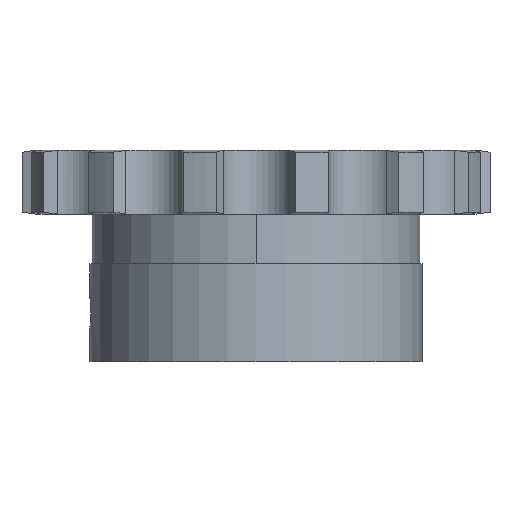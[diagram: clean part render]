
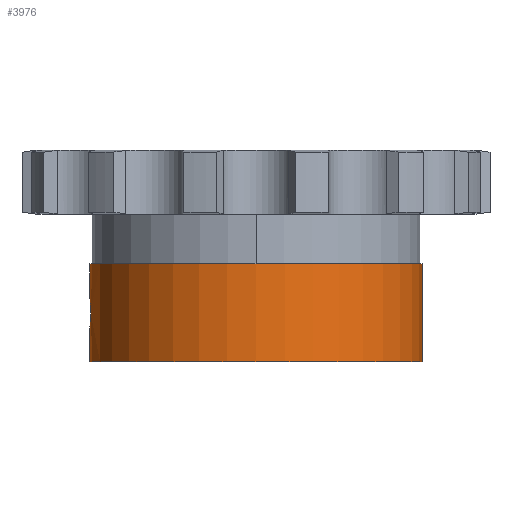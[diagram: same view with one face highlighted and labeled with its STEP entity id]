
A CAD part, front view. The second image highlights one B-rep face of the part: STEP entity #3976.
In plain terms, the highlighted cylindrical face has radius 23.5 mm (diameter 47 mm), a partial arc.
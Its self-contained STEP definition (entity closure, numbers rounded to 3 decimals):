
#992=CARTESIAN_POINT('',(-23.5,0.,
-16.5));
#1013=DIRECTION('',(0.,0.,1.));
#1014=VECTOR('',#1013,13.9);
#1015=CARTESIAN_POINT('',(23.5,0.,-25.45));
#1016=LINE('',#1015,#1014);
#1135=CARTESIAN_POINT('',(0.,0.,-25.45));
#1136=DIRECTION('',(0.,0.,-1.));
#1137=DIRECTION('',(1.,0.,0.));
#1138=AXIS2_PLACEMENT_3D('',#1135,#1136,#1137);
#1164=CARTESIAN_POINT('',(-23.5,0.,
-16.5));
#1165=CARTESIAN_POINT('',(-23.5,-0.119,
-16.5));
#1166=CARTESIAN_POINT('',(-23.498,-0.354,
-16.52));
#1167=CARTESIAN_POINT('',(-23.49,-0.704,
-16.613));
#1168=CARTESIAN_POINT('',(-23.478,-1.028,
-16.763));
#1169=CARTESIAN_POINT('',(-23.463,-1.319,
-16.966));
#1170=CARTESIAN_POINT('',(-23.448,-1.571,
-17.216));
#1171=CARTESIAN_POINT('',(-23.433,-1.775,
-17.509));
#1172=CARTESIAN_POINT('',(-23.421,-1.924,
-17.83));
#1173=CARTESIAN_POINT('',(-23.414,-2.012,
-18.167));
#1174=CARTESIAN_POINT('',(-23.412,-2.03,
-18.389));
#1175=CARTESIAN_POINT('',(-23.412,-2.03,
-18.5));
#1180=DIRECTION('',(0.,0.,1.));
#1181=VECTOR('',#1180,4.95);
#1182=CARTESIAN_POINT('',(-23.5,0.,
-16.5));
#1183=LINE('',#1182,#1181);
#1187=CARTESIAN_POINT('',(0.,0.,-11.55));
#1188=DIRECTION('',(0.,0.,1.));
#1189=DIRECTION('',(-1.,0.,0.));
#1190=AXIS2_PLACEMENT_3D('',#1187,#1188,#1189);
#1195=DIRECTION('',(0.,0.,1.));
#1196=VECTOR('',#1195,4.95);
#1197=CARTESIAN_POINT('',(-23.5,0.,-25.45));
#1198=LINE('',#1197,#1196);
#1202=CARTESIAN_POINT('',(-23.412,-2.03,
-18.5));
#1203=CARTESIAN_POINT('',(-23.412,-2.03,
-18.611));
#1204=CARTESIAN_POINT('',(-23.414,-2.012,
-18.832));
#1205=CARTESIAN_POINT('',(-23.421,-1.925,
-19.169));
#1206=CARTESIAN_POINT('',(-23.433,-1.776,
-19.49));
#1207=CARTESIAN_POINT('',(-23.448,-1.571,
-19.783));
#1208=CARTESIAN_POINT('',(-23.463,-1.319,
-20.034));
#1209=CARTESIAN_POINT('',(-23.478,-1.028,
-20.237));
#1210=CARTESIAN_POINT('',(-23.49,-0.704,
-20.387));
#1211=CARTESIAN_POINT('',(-23.498,-0.355,
-20.48));
#1212=CARTESIAN_POINT('',(-23.5,-0.12,
-20.5));
#1213=CARTESIAN_POINT('',(-23.5,0.,
-20.5));
#2665=CARTESIAN_POINT('',(-23.5,0.,-25.45));
#2666=CARTESIAN_POINT('',(23.5,0.,-25.45));
#2667=VERTEX_POINT('',#2665);
#2668=VERTEX_POINT('',#2666);
#2810=VERTEX_POINT('',#992);
#2813=VERTEX_POINT('',#1175);
#2815=VERTEX_POINT('',#1213);
#2825=CARTESIAN_POINT('',(23.5,0.,-11.55));
#2826=CARTESIAN_POINT('',(-23.5,0.,-11.55));
#2827=VERTEX_POINT('',#2825);
#2828=VERTEX_POINT('',#2826);
#3960=CARTESIAN_POINT('',(0.,0.,4.55));
#3961=DIRECTION('',(0.,0.,1.));
#3962=DIRECTION('',(1.,0.,0.));
#3963=AXIS2_PLACEMENT_3D('',#3960,#3961,#3962);
#3964=CYLINDRICAL_SURFACE('',#3963,23.5);
#3966=ORIENTED_EDGE('',*,*,#3965,.F.);
#3967=ORIENTED_EDGE('',*,*,#3702,.T.);
#3968=ORIENTED_EDGE('',*,*,#3677,.T.);
#3969=ORIENTED_EDGE('',*,*,#3699,.F.);
#3970=ORIENTED_EDGE('',*,*,#3946,.T.);
#3971=ORIENTED_EDGE('',*,*,#3695,.T.);
#3973=ORIENTED_EDGE('',*,*,#3972,.F.);
#3974=EDGE_LOOP('',(#3966,#3967,#3968,#3969,#3970,#3971,#3973));
#3975=FACE_OUTER_BOUND('',#3974,.F.);
#3976=ADVANCED_FACE('',(#3975),#3964,.T.);
#1139=CIRCLE('',#1138,23.5);
#1176=B_SPLINE_CURVE_WITH_KNOTS('',3,(#1164,#1165,#1166,#1167,#1168,#1169,#1170,
#1171,#1172,#1173,#1174,#1175),.UNSPECIFIED.,.F.,.F.,(4,1,1,1,1,1,1,1,1,4),
(0.,0.111,0.222,0.333,0.444,
0.556,0.667,0.778,0.889,1.),
.UNSPECIFIED.);
#1191=CIRCLE('',#1190,23.5);
#1214=B_SPLINE_CURVE_WITH_KNOTS('',3,(#1202,#1203,#1204,#1205,#1206,#1207,#1208,
#1209,#1210,#1211,#1212,#1213),.UNSPECIFIED.,.F.,.F.,(4,1,1,1,1,1,1,1,1,4),
(0.,0.111,0.222,0.333,0.444,
0.556,0.667,0.778,0.889,1.),
.UNSPECIFIED.);
#3677=EDGE_CURVE('',#2828,#2827,#1191,.T.);
#3695=EDGE_CURVE('',#2667,#2815,#1198,.T.);
#3699=EDGE_CURVE('',#2668,#2827,#1016,.T.);
#3702=EDGE_CURVE('',#2810,#2828,#1183,.T.);
#3946=EDGE_CURVE('',#2668,#2667,#1139,.T.);
#3965=EDGE_CURVE('',#2810,#2813,#1176,.T.);
#3972=EDGE_CURVE('',#2813,#2815,#1214,.T.);
